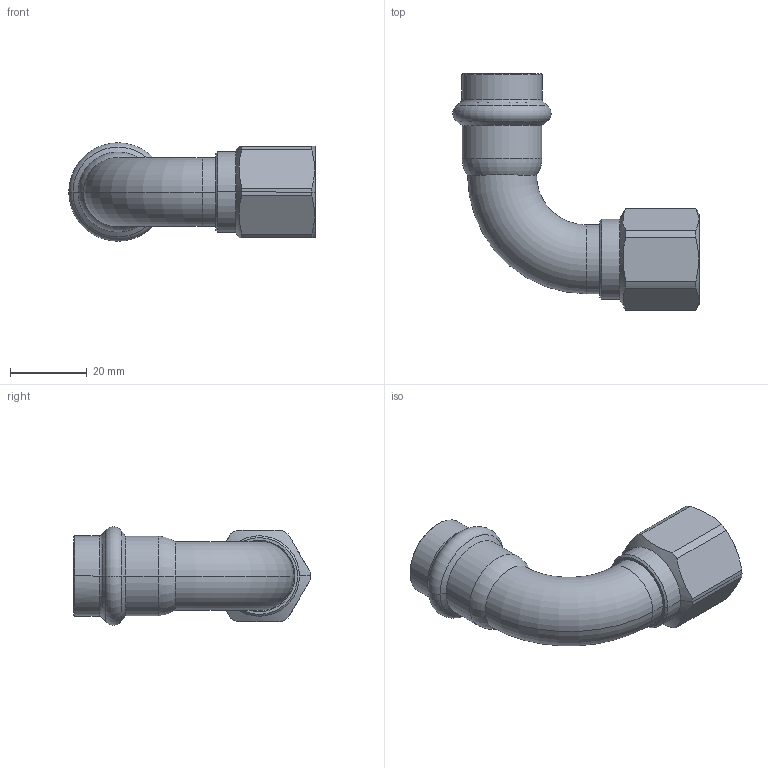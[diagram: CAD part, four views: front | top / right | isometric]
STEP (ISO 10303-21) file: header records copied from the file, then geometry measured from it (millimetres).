
FILE_DESCRIPTION(('CoCreate Modeling STEP Export'),'2;1');
FILE_NAME('8090GVW1812.stp','2013-03-05T11:35:09',(''),(''),'CoCreate Modeling STEP processor for AP214 (Solid Model)','CoCreate Modeling 17.00A 17-Jun-2010 (C) Parametric Technology GmbH','');
FILE_SCHEMA(('AUTOMOTIVE_DESIGN { 1 0 10303 214 1 1 1 1 }'));
Length unit declared in the file: millimetre
Products named in the file (2): 8090GVW1812
Assembly tree (1 placements, depth 2):
  8090GVW1812
    8090GVW1812
Bounding box: 64.35 x 61.73 x 25.7 mm (x, y, z)
Volume: 10921 mm3; surface area: 11580.7 mm2
Topology: 1 solids, 1 shells, 84 faces, 183 edges, 105 vertices
Faces by surface type: cylinder 34, cone 24, torus 14, plane 12
Entity records: 2707 total; most frequent: CARTESIAN_POINT 1110, ORIENTED_EDGE 366, DIRECTION 266, EDGE_CURVE 183, VERTEX_POINT 105, AXIS2_PLACEMENT_3D 101, EDGE_LOOP 90, FACE_OUTER_BOUND 84
